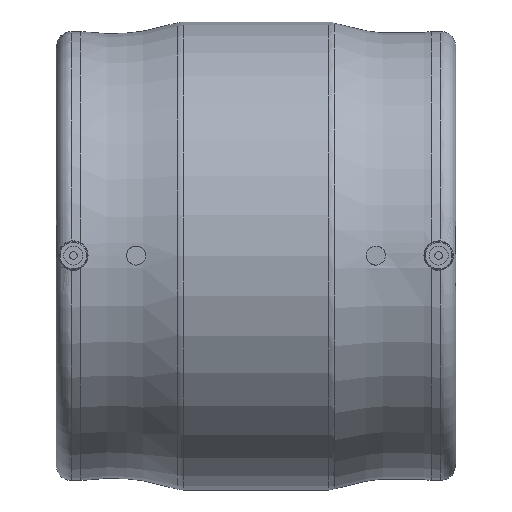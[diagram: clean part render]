
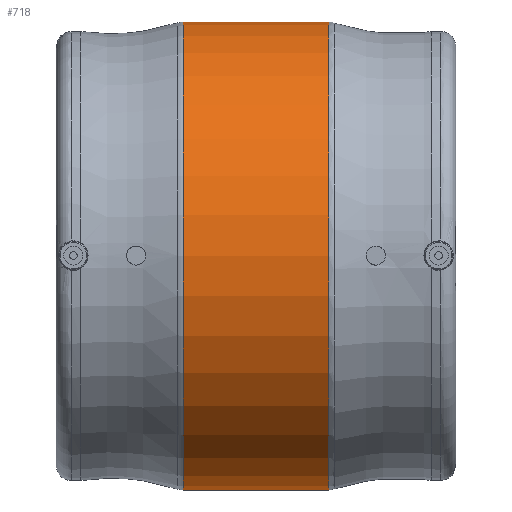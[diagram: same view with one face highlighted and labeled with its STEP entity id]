
A CAD part, top view. The second image highlights one B-rep face of the part: STEP entity #718.
In plain terms, the highlighted cylindrical face has radius 123 mm (diameter 246 mm), a full revolution.
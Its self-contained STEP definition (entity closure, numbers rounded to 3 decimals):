
#47=CYLINDRICAL_SURFACE('',#806,123.);
#232=ORIENTED_EDGE('',*,*,#368,.T.);
#233=ORIENTED_EDGE('',*,*,#369,.T.);
#368=EDGE_CURVE('',#442,#442,#490,.F.);
#369=EDGE_CURVE('',#443,#443,#491,.T.);
#442=VERTEX_POINT('',#1281);
#443=VERTEX_POINT('',#1283);
#490=CIRCLE('',#807,123.);
#491=CIRCLE('',#808,123.);
#545=EDGE_LOOP('',(#232));
#546=EDGE_LOOP('',(#233));
#625=FACE_BOUND('',#545,.T.);
#626=FACE_BOUND('',#546,.T.);
#718=ADVANCED_FACE('',(#625,#626),#47,.T.);
#806=AXIS2_PLACEMENT_3D('',#1279,#976,#977);
#807=AXIS2_PLACEMENT_3D('',#1280,#978,#979);
#808=AXIS2_PLACEMENT_3D('',#1282,#980,#981);
#976=DIRECTION('',(-1.,0.,0.));
#977=DIRECTION('',(0.,0.,1.));
#978=DIRECTION('',(1.,0.,0.));
#979=DIRECTION('',(0.,0.,-1.));
#980=DIRECTION('',(1.,0.,0.));
#981=DIRECTION('',(0.,0.,-1.));
#1279=CARTESIAN_POINT('',(-60.,0.,0.));
#1280=CARTESIAN_POINT('',(38.344,0.,0.));
#1281=CARTESIAN_POINT('',(38.344,0.,-123.));
#1282=CARTESIAN_POINT('',(-38.344,0.,0.));
#1283=CARTESIAN_POINT('',(-38.344,0.,-123.));
